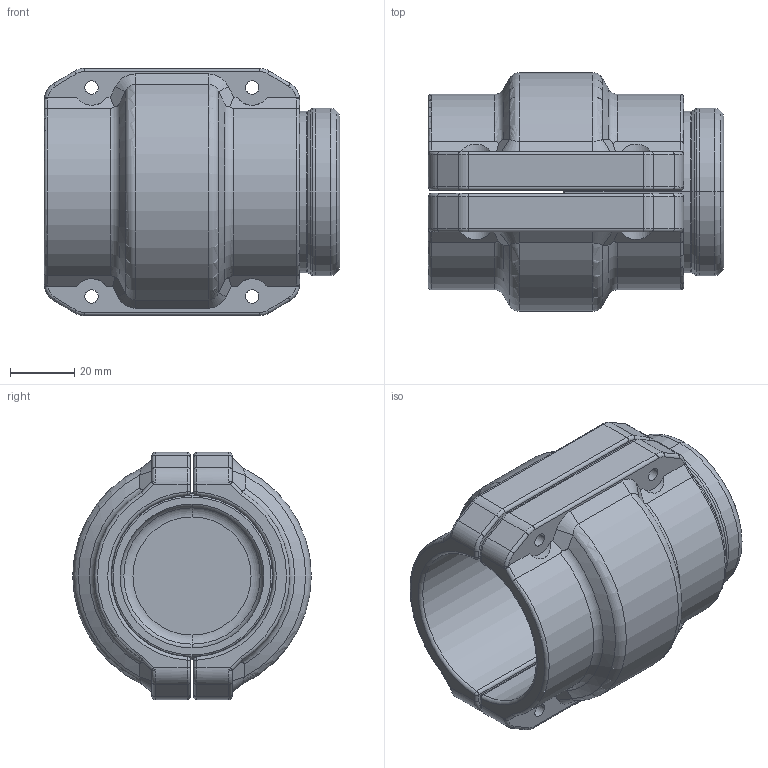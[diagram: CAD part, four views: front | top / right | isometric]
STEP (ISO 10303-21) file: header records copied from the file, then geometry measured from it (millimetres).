
FILE_DESCRIPTION((''),'2;1');
FILE_NAME('2015500699_ASM_7_ASM','2017-05-15T',('Administrator'),(''),'PRO/ENGINEER BY PARAMETRIC TECHNOLOGY CORPORATION, 2009360','PRO/ENGINEER BY PARAMETRIC TECHNOLOGY CORPORATION, 2009360','');
FILE_SCHEMA(('AUTOMOTIVE_DESIGN_CC2 { 1 2 10303 214 -1 1 5 2 }'));
Length unit declared in the file: millimetre
Products named in the file (5): 2015500600_5; 201550020001_1; 201550020000_1; 2015500200_ASM_1_ASM; 2015500699_ASM_7_ASM
Assembly tree (4 placements, depth 3):
  2015500699_ASM_7_ASM
    2015500600_5
    2015500200_ASM_1_ASM
      201550020001_1
      201550020000_1
Bounding box: 92 x 74.3 x 77 mm (x, y, z)
Volume: 174472.4 mm3; surface area: 55274 mm2
Topology: 3 solids, 3 shells, 239 faces, 614 edges, 374 vertices
Faces by surface type: cylinder 98, torus 64, plane 39, bspline 24, sphere 8, cone 6
Entity records: 10225 total; most frequent: CARTESIAN_POINT 2532, DIRECTION 1248, ORIENTED_EDGE 1212, PRESENTATION_STYLE_ASSIGNMENT 609, STYLED_ITEM 609, CURVE_STYLE 606, EDGE_CURVE 606, AXIS2_PLACEMENT_3D 528
